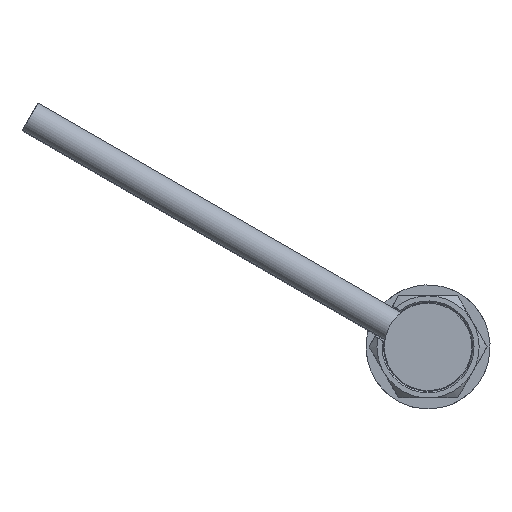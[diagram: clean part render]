
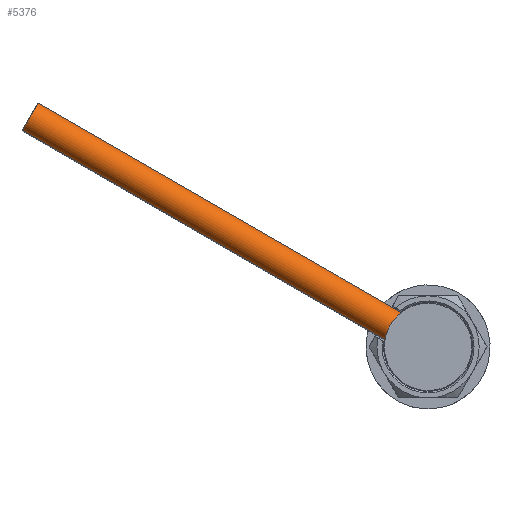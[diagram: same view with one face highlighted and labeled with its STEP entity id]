
A CAD part, front view. The second image highlights one B-rep face of the part: STEP entity #5376.
In plain terms, the highlighted cylindrical face has radius 1.1 mm (diameter 2.2 mm), a partial arc.
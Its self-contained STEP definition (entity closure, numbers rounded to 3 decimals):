
#319 = EDGE_CURVE ( 'NONE', #2408, #517, #6567, .T. ) ;
#379 = DIRECTION ( 'NONE',  ( 0., 0., -1. ) ) ;
#517 = VERTEX_POINT ( 'NONE', #2355 ) ;
#1052 = LINE ( 'NONE', #2876, #3498 ) ;
#1170 = ORIENTED_EDGE ( 'NONE', *, *, #3892, .F. ) ;
#1649 = VECTOR ( 'NONE', #379, 1000. ) ;
#1676 = CARTESIAN_POINT ( 'NONE',  ( 0., 0., 30. ) ) ;
#1772 = DIRECTION ( 'NONE',  ( 0., 0., 1. ) ) ;
#1999 = VERTEX_POINT ( 'NONE', #2583 ) ;
#2068 = CARTESIAN_POINT ( 'NONE',  ( 0., 0., 30. ) ) ;
#2108 = DIRECTION ( 'NONE',  ( 0., 0., 1. ) ) ;
#2355 = CARTESIAN_POINT ( 'NONE',  ( 1.1, 0., 0. ) ) ;
#2408 = VERTEX_POINT ( 'NONE', #3541 ) ;
#2573 = ORIENTED_EDGE ( 'NONE', *, *, #5064, .T. ) ;
#2583 = CARTESIAN_POINT ( 'NONE',  ( -1.1, 0., 30. ) ) ;
#2596 = AXIS2_PLACEMENT_3D ( 'NONE', #6909, #1772, #4040 ) ;
#2876 = CARTESIAN_POINT ( 'NONE',  ( -1.1, 0., 30. ) ) ;
#3319 = AXIS2_PLACEMENT_3D ( 'NONE', #1676, #6224, #3387 ) ;
#3332 = DIRECTION ( 'NONE',  ( 0., 0., -1. ) ) ;
#3387 = DIRECTION ( 'NONE',  ( -1., 0., 0. ) ) ;
#3498 = VECTOR ( 'NONE', #3332, 1000. ) ;
#3526 = ORIENTED_EDGE ( 'NONE', *, *, #6885, .F. ) ;
#3541 = CARTESIAN_POINT ( 'NONE',  ( 1.1, 0., 30. ) ) ;
#3723 = CARTESIAN_POINT ( 'NONE',  ( 1.1, 0., 30. ) ) ;
#3892 = EDGE_CURVE ( 'NONE', #1999, #4439, #1052, .T. ) ;
#3946 = CARTESIAN_POINT ( 'NONE',  ( -1.1, 0., 0. ) ) ;
#4040 = DIRECTION ( 'NONE',  ( 1., 0., 0. ) ) ;
#4389 = FACE_OUTER_BOUND ( 'NONE', #5384, .T. ) ;
#4439 = VERTEX_POINT ( 'NONE', #3946 ) ;
#4600 = AXIS2_PLACEMENT_3D ( 'NONE', #2068, #2108, #7208 ) ;
#4970 = CIRCLE ( 'NONE', #4600, 1.1 ) ;
#5064 = EDGE_CURVE ( 'NONE', #517, #4439, #7347, .T. ) ;
#5246 = ORIENTED_EDGE ( 'NONE', *, *, #319, .T. ) ;
#5376 = ADVANCED_FACE ( 'NONE', ( #4389 ), #6673, .T. ) ;
#5384 = EDGE_LOOP ( 'NONE', ( #3526, #5246, #2573, #1170 ) ) ;
#6224 = DIRECTION ( 'NONE',  ( 0., 0., -1. ) ) ;
#6567 = LINE ( 'NONE', #3723, #1649 ) ;
#6673 = CYLINDRICAL_SURFACE ( 'NONE', #3319, 1.1 ) ;
#6885 = EDGE_CURVE ( 'NONE', #2408, #1999, #4970, .T. ) ;
#6909 = CARTESIAN_POINT ( 'NONE',  ( 0., 0., 0. ) ) ;
#7208 = DIRECTION ( 'NONE',  ( 1., 0., 0. ) ) ;
#7347 = CIRCLE ( 'NONE', #2596, 1.1 ) ;
